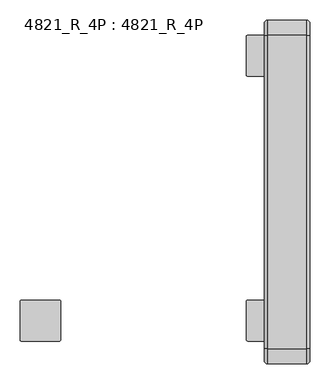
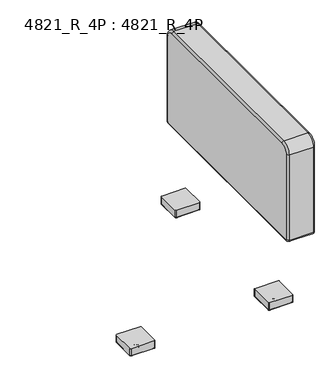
"""IFC4 building model written with IfcOpenShell, lengths in millimetres: furniture geometry, 4821_R_4P : 4821_R_4P."""

from ifc_helpers import new_model, si_unit, point, frame, frame_2d, origin, place, context, project, spatial, polyline, circle_curve, ellipse_curve, trimmed, segment, composite_curve, outline, extrude, source, transform, mapped, element, save
from ifc_brep_helpers import plane_surface, cylinder_surface, revolved_surface, advanced_brep


def furniture_4821_r_4p_4821_r_4p_cb9a3e68(model_context):
    return source(origin(), model_context, "Body", "SolidModel", [
        advanced_brep(
        [(0.0, -8.89, 698.8175), (0.0, -38.1, 728.0275), (0.0, -819.15, 728.0275), (0.0, -848.36, 698.8175), (0.0, -848.36, 330.4403326), (0.0, -847.8021674, 329.8825), (0.0, -9.4347305, 329.8825), (0.0, -8.89, 330.4272305), (-114.3, -38.1, 728.0275), (-114.3, -8.89, 698.8175), (-114.3, -8.89, 330.4272305), (-114.3, -9.4347305, 329.8825), (-114.3, -847.8021674, 329.8825), (-114.3, -848.36, 330.4403326), (-114.3, -848.36, 698.8175), (-114.3, -819.15, 728.0275), (-105.41, -38.1, 736.9175), (-105.41, -819.15, 736.9175), (-8.89, -819.15, 736.9175), (-8.89, -38.1, 736.9175), (-105.41, -857.25, 698.8175), (-8.89, -857.25, 698.8175), (-105.41, -857.25, 330.4403326), (-8.89, -857.25, 330.4403326), (-105.41, -847.8021674, 320.9925), (-8.89, -847.8021674, 320.9925), (-105.41, -9.4347305, 320.9925), (-8.89, -9.4347305, 320.9925), (-57.15, -187.325, 320.9925), (-57.15, -161.925, 320.9925), (-57.15, -695.325, 320.9925), (-57.15, -669.925, 320.9925), (-105.41, 0.0, 330.4272305), (-8.89, 0.0, 330.4272305), (-105.41, 0.0, 698.8175), (-8.89, 0.0, 698.8175), (-57.15, -161.925, 333.6925), (-57.15, -187.325, 333.6925), (-57.15, -669.925, 333.6925), (-57.15, -695.325, 333.6925)],
        [
            (0, 1, circle_curve(frame((0.0, -38.1, 698.8175), z_axis=(1.0, 0.0, 0.0), x_axis=(0.0, 0.0, 1.0)), 29.21)),
            (1, 2),
            (2, 3, circle_curve(frame((0.0, -819.15, 698.8175), z_axis=(1.0, 0.0, 0.0), x_axis=(0.0, -1.0, 0.0)), 29.21)),
            (3, 4),
            (4, 5, circle_curve(frame((0.0, -847.8021674, 330.4403326), z_axis=(1.0, 0.0, 0.0), x_axis=(0.0, 0.0, -1.0)), 0.5578326)),
            (5, 6),
            (6, 7, circle_curve(frame((0.0, -9.4347305, 330.4272305), z_axis=(1.0, 0.0, 0.0), x_axis=(0.0, 1.0, 0.0)), 0.5447305)),
            (7, 0),
            (8, 9, circle_curve(frame((-114.3, -38.1, 698.8175), z_axis=(-1.0, 0.0, 0.0), x_axis=(0.0, 0.0, 1.0)), 29.21)),
            (9, 10),
            (10, 11, circle_curve(frame((-114.3, -9.4347305, 330.4272305), z_axis=(-1.0, 0.0, 0.0), x_axis=(0.0, 1.0, 0.0)), 0.5447305)),
            (11, 12),
            (12, 13, circle_curve(frame((-114.3, -847.8021674, 330.4403326), z_axis=(-1.0, 0.0, 0.0), x_axis=(0.0, 0.0, -1.0)), 0.5578326)),
            (13, 14),
            (14, 15, circle_curve(frame((-114.3, -819.15, 698.8175), z_axis=(-1.0, 0.0, 0.0), x_axis=(0.0, -1.0, 0.0)), 29.21)),
            (15, 8),
            (16, 17),
            (17, 18),
            (18, 19),
            (19, 16),
            (17, 20, circle_curve(frame((-105.41, -819.15, 698.8175), z_axis=(1.0, 0.0, 0.0), x_axis=(0.0, -1.0, 0.0)), 38.1)),
            (20, 21),
            (21, 18, circle_curve(frame((-8.89, -819.15, 698.8175), z_axis=(-1.0, 0.0, 0.0), x_axis=(0.0, -1.0, 0.0)), 38.1)),
            (20, 22),
            (22, 23),
            (23, 21),
            (22, 24, circle_curve(frame((-105.41, -847.8021674, 330.4403326), z_axis=(1.0, 0.0, 0.0), x_axis=(0.0, -1.0, 0.0)), 9.4478326)),
            (24, 25),
            (25, 23, circle_curve(frame((-8.89, -847.8021674, 330.4403326), z_axis=(-1.0, 0.0, 0.0), x_axis=(0.0, -1.0, 0.0)), 9.4478326)),
            (24, 26),
            (26, 27),
            (27, 25),
            (28, 29, circle_curve(frame((-57.15, -174.625, 320.9925), z_axis=(0.0, 0.0, 1.0), x_axis=(-1.0, 0.0, 0.0)), 12.7)),
            (29, 28),
            (30, 31, circle_curve(frame((-57.15, -682.625, 320.9925), z_axis=(0.0, 0.0, 1.0), x_axis=(-1.0, 0.0, 0.0)), 12.7)),
            (31, 30),
            (26, 32, circle_curve(frame((-105.41, -9.4347305, 330.4272305), z_axis=(1.0, 0.0, 0.0), x_axis=(0.0, -1.0, 0.0)), 9.4347305)),
            (32, 33),
            (33, 27, circle_curve(frame((-8.89, -9.4347305, 330.4272305), z_axis=(-1.0, 0.0, 0.0), x_axis=(0.0, -1.0, 0.0)), 9.4347305)),
            (32, 34),
            (34, 35),
            (35, 33),
            (34, 16, circle_curve(frame((-105.41, -38.1, 698.8175), z_axis=(1.0, 0.0, 0.0), x_axis=(0.0, -1.0, 0.0)), 38.1)),
            (19, 35, circle_curve(frame((-8.89, -38.1, 698.8175), z_axis=(-1.0, 0.0, 0.0), x_axis=(0.0, -1.0, 0.0)), 38.1)),
            (34, 9, circle_curve(frame((-105.41, -8.89, 698.8175), z_axis=(0.0, 0.0, 1.0), x_axis=(1.0, 0.0, 0.0)), 8.89)),
            (8, 16, circle_curve(frame((-105.41, -38.1, 728.0275), z_axis=(0.0, 1.0, 0.0), x_axis=(1.0, 0.0, 0.0)), 8.89)),
            (32, 10, circle_curve(frame((-105.41, -8.89, 330.4272305), z_axis=(0.0, 0.0, 1.0), x_axis=(1.0, 0.0, 0.0)), 8.89)),
            (26, 11, circle_curve(frame((-105.41, -9.4347305, 329.8825), z_axis=(0.0, 1.0, 0.0), x_axis=(1.0, 0.0, 0.0)), 8.89)),
            (24, 12, circle_curve(frame((-105.41, -847.8021674, 329.8825), z_axis=(0.0, 1.0, 0.0), x_axis=(1.0, 0.0, 0.0)), 8.89)),
            (22, 13, circle_curve(frame((-105.41, -848.36, 330.4403326), z_axis=(0.0, 0.0, -1.0), x_axis=(1.0, 0.0, 0.0)), 8.89)),
            (20, 14, circle_curve(frame((-105.41, -848.36, 698.8175), z_axis=(0.0, 0.0, -1.0), x_axis=(1.0, 0.0, 0.0)), 8.89)),
            (17, 15, circle_curve(frame((-105.41, -819.15, 728.0275), z_axis=(0.0, -1.0, 0.0), x_axis=(1.0, 0.0, 0.0)), 8.89)),
            (0, 35, circle_curve(frame((-8.89, -8.89, 698.8175), z_axis=(0.0, 0.0, 1.0), x_axis=(-1.0, 0.0, 0.0)), 8.89)),
            (19, 1, circle_curve(frame((-8.89, -38.1, 728.0275), z_axis=(0.0, 1.0, 0.0), x_axis=(-1.0, 0.0, 0.0)), 8.89)),
            (7, 33, circle_curve(frame((-8.89, -8.89, 330.4272305), z_axis=(0.0, 0.0, 1.0), x_axis=(-1.0, 0.0, 0.0)), 8.89)),
            (6, 27, circle_curve(frame((-8.89, -9.4347305, 329.8825), z_axis=(0.0, 1.0, 0.0), x_axis=(-1.0, 0.0, 0.0)), 8.89)),
            (5, 25, circle_curve(frame((-8.89, -847.8021674, 329.8825), z_axis=(0.0, 1.0, 0.0), x_axis=(-1.0, 0.0, 0.0)), 8.89)),
            (4, 23, circle_curve(frame((-8.89, -848.36, 330.4403326), z_axis=(0.0, 0.0, -1.0), x_axis=(-1.0, 0.0, 0.0)), 8.89)),
            (3, 21, circle_curve(frame((-8.89, -848.36, 698.8175), z_axis=(0.0, 0.0, -1.0), x_axis=(-1.0, 0.0, 0.0)), 8.89)),
            (2, 18, circle_curve(frame((-8.89, -819.15, 728.0275), z_axis=(0.0, -1.0, 0.0), x_axis=(-1.0, 0.0, 0.0)), 8.89)),
            (36, 37, circle_curve(frame((-57.15, -174.625, 333.6925), z_axis=(0.0, 0.0, -1.0), x_axis=(-1.0, 0.0, 0.0)), 12.7)),
            (37, 36),
            (38, 39, circle_curve(frame((-57.15, -682.625, 333.6925), z_axis=(0.0, 0.0, -1.0), x_axis=(-1.0, 0.0, 0.0)), 12.7)),
            (39, 38),
            (36, 29),
            (28, 37),
            (38, 31),
            (30, 39),
        ],
        [
            plane_surface(frame((0.0, -819.15, 736.9175), z_axis=(1.0, 0.0, 0.0), x_axis=(0.0, -1.0, 0.0))),
            plane_surface(frame((-114.3, -819.15, 736.9175), z_axis=(-1.0, 0.0, 0.0), x_axis=(0.0, 1.0, 0.0))),
            plane_surface(frame((0.0, -38.1, 736.9175), z_axis=(0.0, 0.0, 1.0), x_axis=(-1.0, 0.0, 0.0))),
            cylinder_surface(frame((-114.3, -819.15, 698.8175), z_axis=(1.0, 0.0, 0.0), x_axis=(0.0, -1.0, 0.0)), 38.1),
            plane_surface(frame((0.0, -857.25, 698.8175), z_axis=(0.0, -1.0, 0.0), x_axis=(-1.0, 0.0, 0.0))),
            cylinder_surface(frame((-114.3, -847.8021674, 330.4403326), z_axis=(1.0, 0.0, 0.0), x_axis=(0.0, -1.0, 0.0)), 9.4478326),
            plane_surface(frame((0.0, -847.8021674, 320.9925), z_axis=(0.0, 0.0, -1.0), x_axis=(-1.0, 0.0, 0.0))),
            cylinder_surface(frame((-114.3, -9.4347305, 330.4272305), z_axis=(1.0, 0.0, 0.0), x_axis=(0.0, -1.0, 0.0)), 9.4347305),
            plane_surface(frame((0.0, 0.0, 330.4272305), z_axis=(0.0, 1.0, 0.0), x_axis=(-1.0, 0.0, 0.0))),
            cylinder_surface(frame((-114.3, -38.1, 698.8175), z_axis=(1.0, 0.0, 0.0), x_axis=(0.0, -1.0, 0.0)), 38.1),
            revolved_surface(trimmed(ellipse_curve(frame((-105.41, -38.1, 728.0275), z_axis=(0.0, -1.0, 0.0), x_axis=(1.0, 0.0, 0.0)), 8.89, 8.89), [point((-105.41, -38.1, 736.9175))], [point((-114.3, -38.1, 728.0275))], True, "CARTESIAN"), (-114.3, -38.1, 698.8175), (-1.0, 0.0, 0.0)),
            cylinder_surface(frame((-105.41, -8.89, 698.8175), z_axis=(0.0, 0.0, -1.0), x_axis=(1.0, 0.0, 0.0)), 8.89),
            revolved_surface(trimmed(ellipse_curve(frame((-105.41, -8.89, 330.4272305), z_axis=(0.0, 0.0, 1.0), x_axis=(1.0, 0.0, 0.0)), 8.89, 8.89), [point((-105.41, 0.0, 330.4272305))], [point((-114.3, -8.89, 330.4272305))], True, "CARTESIAN"), (-114.3, -9.4347305, 330.4272305), (-1.0, 0.0, 0.0)),
            cylinder_surface(frame((-105.41, -9.4347305, 329.8825), z_axis=(0.0, -1.0, 0.0), x_axis=(1.0, 0.0, 0.0)), 8.89),
            revolved_surface(trimmed(ellipse_curve(frame((-105.41, -847.8021674, 329.8825), z_axis=(0.0, 1.0, 0.0), x_axis=(1.0, 0.0, 0.0)), 8.89, 8.89), [point((-105.41, -847.8021674, 320.9925))], [point((-114.3, -847.8021674, 329.8825))], True, "CARTESIAN"), (-114.3, -847.8021674, 330.4403326), (-1.0, 0.0, 0.0)),
            cylinder_surface(frame((-105.41, -848.36, 330.4403326), z_axis=(0.0, 0.0, 1.0), x_axis=(1.0, 0.0, 0.0)), 8.89),
            revolved_surface(trimmed(ellipse_curve(frame((-105.41, -848.36, 698.8175), z_axis=(0.0, 0.0, -1.0), x_axis=(1.0, 0.0, 0.0)), 8.89, 8.89), [point((-105.41, -857.25, 698.8175))], [point((-114.3, -848.36, 698.8175))], True, "CARTESIAN"), (-114.3, -819.15, 698.8175), (-1.0, 0.0, 0.0)),
            cylinder_surface(frame((-105.41, -819.15, 728.0275), z_axis=(0.0, 1.0, 0.0), x_axis=(1.0, 0.0, 0.0)), 8.89),
            revolved_surface(trimmed(ellipse_curve(frame((-8.89, -38.1, 728.0275), z_axis=(0.0, -1.0, 0.0), x_axis=(-1.0, 0.0, 0.0)), 8.89, 8.89), [point((0.0, -38.1, 728.0275))], [point((-8.89, -38.1, 736.9175))], True, "CARTESIAN"), (0.0, -38.1, 698.8175), (-1.0, 0.0, 0.0)),
            cylinder_surface(frame((-8.89, -8.89, 698.8175), z_axis=(0.0, 0.0, -1.0), x_axis=(-1.0, 0.0, 0.0)), 8.89),
            revolved_surface(trimmed(ellipse_curve(frame((-8.89, -8.89, 330.4272305), z_axis=(0.0, 0.0, 1.0), x_axis=(-1.0, 0.0, 0.0)), 8.89, 8.89), [point((0.0, -8.89, 330.4272305))], [point((-8.89, 0.0, 330.4272305))], True, "CARTESIAN"), (0.0, -9.4347305, 330.4272305), (-1.0, 0.0, 0.0)),
            cylinder_surface(frame((-8.89, -9.4347305, 329.8825), z_axis=(0.0, -1.0, 0.0), x_axis=(-1.0, 0.0, 0.0)), 8.89),
            revolved_surface(trimmed(ellipse_curve(frame((-8.89, -847.8021674, 329.8825), z_axis=(0.0, 1.0, 0.0), x_axis=(-1.0, 0.0, 0.0)), 8.89, 8.89), [point((0.0, -847.8021674, 329.8825))], [point((-8.89, -847.8021674, 320.9925))], True, "CARTESIAN"), (0.0, -847.8021674, 330.4403326), (-1.0, 0.0, 0.0)),
            cylinder_surface(frame((-8.89, -848.36, 330.4403326), z_axis=(0.0, 0.0, 1.0), x_axis=(-1.0, 0.0, 0.0)), 8.89),
            revolved_surface(trimmed(ellipse_curve(frame((-8.89, -848.36, 698.8175), z_axis=(0.0, 0.0, -1.0), x_axis=(-1.0, 0.0, 0.0)), 8.89, 8.89), [point((0.0, -848.36, 698.8175))], [point((-8.89, -857.25, 698.8175))], True, "CARTESIAN"), (0.0, -819.15, 698.8175), (-1.0, 0.0, 0.0)),
            cylinder_surface(frame((-8.89, -819.15, 728.0275), z_axis=(0.0, 1.0, 0.0), x_axis=(-1.0, 0.0, 0.0)), 8.89),
            plane_surface(frame((-57.15, -187.325, 333.6925), z_axis=(0.0, 0.0, -1.0), x_axis=(0.0, -1.0, 0.0))),
            revolved_surface(polyline([(-69.85, -174.625, 333.6925), (-69.85, -174.625, 320.9925)]), (-57.15, -174.625, 320.9925), (0.0, 0.0, 1.0)),
            plane_surface(frame((-57.15, -161.925, 333.6925), z_axis=(1.0, 0.0, 0.0), x_axis=(0.0, 0.0, -1.0))),
            revolved_surface(polyline([(-69.85, -682.625, 333.6925), (-69.85, -682.625, 320.9925)]), (-57.15, -682.625, 9.8425), (0.0, 0.0, 1.0)),
            plane_surface(frame((-57.15, -669.925, 333.6925), z_axis=(1.0, 0.0, 0.0), x_axis=(0.0, 0.0, -1.0))),
        ],
        [
            (0, [[1, 2, 3, 4, 5, 6, 7, 8]]),
            (1, [[9, 10, 11, 12, 13, 14, 15, 16]]),
            (2, [[17, 18, 19, 20]]),
            (3, [[21, 22, 23, -18]]),
            (4, [[24, 25, 26, -22]]),
            (5, [[27, 28, 29, -25]]),
            (6, [[30, 31, 32, -28], [33, 34], [35, 36]]),
            (7, [[37, 38, 39, -31]]),
            (8, [[40, 41, 42, -38]]),
            (9, [[43, -20, 44, -41]]),
            (10, [[45, -9, 46, -43]]),
            (11, [[-45, -40, 47, -10]]),
            (12, [[-47, -37, 48, -11]]),
            (13, [[-48, -30, 49, -12]]),
            (14, [[-49, -27, 50, -13]]),
            (15, [[-50, -24, 51, -14]]),
            (16, [[-51, -21, 52, -15]]),
            (17, [[-46, -16, -52, -17]]),
            (18, [[53, -44, 54, -1]]),
            (19, [[-53, -8, 55, -42]]),
            (20, [[-55, -7, 56, -39]]),
            (21, [[-56, -6, 57, -32]]),
            (22, [[-57, -5, 58, -29]]),
            (23, [[-58, -4, 59, -26]]),
            (24, [[-59, -3, 60, -23]]),
            (25, [[-54, -19, -60, -2]]),
            (26, [[61, 62]]),
            (26, [[63, 64]]),
            (27, [[-61, 65, -33, 66]]),
            (28, [[-62, -66, -34, -65]]),
            (29, [[-63, 67, -35, 68]]),
            (30, [[-64, -68, -36, -67]]),
        ],
    ),
        advanced_brep(
        [(-625.475, -698.5, 41.5925), (-720.725, -698.5, 41.5925), (-723.9, -701.675, 41.5925), (-723.9, -796.925, 41.5925), (-720.725, -800.1, 41.5925), (-625.475, -800.1, 41.5925), (-622.3, -796.925, 41.5925), (-622.3, -701.675, 41.5925), (-722.63, -701.675, 11.1125), (-720.725, -699.77, 11.1125), (-625.475, -699.77, 11.1125), (-623.57, -701.675, 11.1125), (-623.57, -796.925, 11.1125), (-625.475, -798.83, 11.1125), (-720.725, -798.83, 11.1125), (-722.63, -796.925, 11.1125), (-625.475, -698.5, 11.1125), (-720.725, -698.5, 11.1125), (-723.9, -701.675, 11.1125), (-723.9, -796.925, 11.1125), (-720.725, -800.1, 11.1125), (-625.475, -800.1, 11.1125), (-622.3, -796.925, 11.1125), (-622.3, -701.675, 11.1125), (-720.725, -699.77, 9.8425), (-722.63, -701.675, 9.8425), (-625.475, -699.77, 9.8425), (-623.57, -701.675, 9.8425), (-623.57, -796.925, 9.8425), (-625.475, -798.83, 9.8425), (-720.725, -798.83, 9.8425), (-722.63, -796.925, 9.8425)],
        [
            (0, 1),
            (1, 2, circle_curve(frame((-720.725, -701.675, 41.5925), z_axis=(0.0, 0.0, 1.0), x_axis=(1.0, 0.0, 0.0)), 3.175)),
            (2, 3),
            (3, 4, circle_curve(frame((-720.725, -796.925, 41.5925), z_axis=(0.0, 0.0, 1.0), x_axis=(1.0, 0.0, 0.0)), 3.175)),
            (4, 5),
            (5, 6, circle_curve(frame((-625.475, -796.925, 41.5925), z_axis=(0.0, 0.0, 1.0), x_axis=(1.0, 0.0, 0.0)), 3.175)),
            (6, 7),
            (7, 0, circle_curve(frame((-625.475, -701.675, 41.5925), z_axis=(0.0, 0.0, 1.0), x_axis=(1.0, 0.0, 0.0)), 3.175)),
            (8, 9, circle_curve(frame((-720.725, -701.675, 11.1125), z_axis=(0.0, 0.0, -1.0), x_axis=(-1.0, 0.0, 0.0)), 1.905)),
            (9, 10),
            (10, 11, circle_curve(frame((-625.475, -701.675, 11.1125), z_axis=(0.0, 0.0, -1.0), x_axis=(0.0, 1.0, 0.0)), 1.905)),
            (11, 12),
            (12, 13, circle_curve(frame((-625.475, -796.925, 11.1125), z_axis=(0.0, 0.0, -1.0), x_axis=(1.0, 0.0, 0.0)), 1.905)),
            (13, 14),
            (14, 15, circle_curve(frame((-720.725, -796.925, 11.1125), z_axis=(0.0, 0.0, -1.0), x_axis=(0.0, -1.0, 0.0)), 1.905)),
            (15, 8),
            (0, 16),
            (16, 17),
            (17, 1),
            (17, 18, circle_curve(frame((-720.725, -701.675, 11.1125), z_axis=(0.0, 0.0, 1.0), x_axis=(1.0, 0.0, 0.0)), 3.175)),
            (18, 2),
            (18, 19),
            (19, 3),
            (19, 20, circle_curve(frame((-720.725, -796.925, 11.1125), z_axis=(0.0, 0.0, 1.0), x_axis=(1.0, 0.0, 0.0)), 3.175)),
            (20, 4),
            (20, 21),
            (21, 5),
            (21, 22, circle_curve(frame((-625.475, -796.925, 11.1125), z_axis=(0.0, 0.0, 1.0), x_axis=(1.0, 0.0, 0.0)), 3.175)),
            (22, 6),
            (22, 23),
            (23, 7),
            (23, 16, circle_curve(frame((-625.475, -701.675, 11.1125), z_axis=(0.0, 0.0, 1.0), x_axis=(1.0, 0.0, 0.0)), 3.175)),
            (24, 25, circle_curve(frame((-720.725, -701.675, 9.8425), z_axis=(0.0, 0.0, 1.0), x_axis=(-1.0, 0.0, 0.0)), 1.905)),
            (25, 18, circle_curve(frame((-722.63, -701.675, 11.1125), z_axis=(0.0, 1.0, 0.0), x_axis=(1.0, 0.0, 0.0)), 1.27)),
            (17, 24, circle_curve(frame((-720.725, -699.77, 11.1125), z_axis=(-1.0, 0.0, 0.0), x_axis=(0.0, -1.0, 0.0)), 1.27)),
            (16, 26, circle_curve(frame((-625.475, -699.77, 11.1125), z_axis=(-1.0, 0.0, 0.0), x_axis=(0.0, -1.0, 0.0)), 1.27)),
            (26, 24),
            (23, 27, circle_curve(frame((-623.57, -701.675, 11.1125), z_axis=(0.0, 1.0, 0.0), x_axis=(-1.0, 0.0, 0.0)), 1.27)),
            (27, 26, circle_curve(frame((-625.475, -701.675, 9.8425), z_axis=(0.0, 0.0, 1.0), x_axis=(0.0, 1.0, 0.0)), 1.905)),
            (22, 28, circle_curve(frame((-623.57, -796.925, 11.1125), z_axis=(0.0, 1.0, 0.0), x_axis=(-1.0, 0.0, 0.0)), 1.27)),
            (28, 27),
            (21, 29, circle_curve(frame((-625.475, -798.83, 11.1125), z_axis=(1.0, 0.0, 0.0), x_axis=(0.0, 1.0, 0.0)), 1.27)),
            (29, 28, circle_curve(frame((-625.475, -796.925, 9.8425), z_axis=(0.0, 0.0, 1.0), x_axis=(1.0, 0.0, 0.0)), 1.905)),
            (20, 30, circle_curve(frame((-720.725, -798.83, 11.1125), z_axis=(1.0, 0.0, 0.0), x_axis=(0.0, 1.0, 0.0)), 1.27)),
            (30, 29),
            (19, 31, circle_curve(frame((-722.63, -796.925, 11.1125), z_axis=(0.0, -1.0, 0.0), x_axis=(1.0, 0.0, 0.0)), 1.27)),
            (31, 30, circle_curve(frame((-720.725, -796.925, 9.8425), z_axis=(0.0, 0.0, 1.0), x_axis=(0.0, -1.0, 0.0)), 1.905)),
            (25, 31),
            (24, 9),
            (8, 25),
            (26, 10),
            (27, 11),
            (28, 12),
            (29, 13),
            (30, 14),
            (31, 15),
        ],
        [
            plane_surface(frame((-720.725, -698.5, 41.5925), z_axis=(0.0, 0.0, 1.0), x_axis=(-1.0, 0.0, 0.0))),
            plane_surface(frame((-720.725, -698.5, 11.1125), z_axis=(0.0, 0.0, -1.0), x_axis=(1.0, 0.0, 0.0))),
            plane_surface(frame((-625.475, -698.5, 41.5925), z_axis=(0.0, 1.0, 0.0), x_axis=(0.0, 0.0, -1.0))),
            cylinder_surface(frame((-720.725, -701.675, 11.1125), z_axis=(0.0, 0.0, 1.0), x_axis=(1.0, 0.0, 0.0)), 3.175),
            plane_surface(frame((-723.9, -701.675, 41.5925), z_axis=(-1.0, 0.0, 0.0), x_axis=(0.0, 0.0, -1.0))),
            cylinder_surface(frame((-720.725, -796.925, 11.1125), z_axis=(0.0, 0.0, 1.0), x_axis=(1.0, 0.0, 0.0)), 3.175),
            plane_surface(frame((-720.725, -800.1, 41.5925), z_axis=(0.0, -1.0, 0.0), x_axis=(0.0, 0.0, -1.0))),
            cylinder_surface(frame((-625.475, -796.925, 11.1125), z_axis=(0.0, 0.0, 1.0), x_axis=(1.0, 0.0, 0.0)), 3.175),
            plane_surface(frame((-622.3, -796.925, 41.5925), z_axis=(1.0, 0.0, 0.0), x_axis=(0.0, 0.0, -1.0))),
            cylinder_surface(frame((-625.475, -701.675, 11.1125), z_axis=(0.0, 0.0, 1.0), x_axis=(1.0, 0.0, 0.0)), 3.175),
            revolved_surface(trimmed(ellipse_curve(frame((-722.63, -701.675, 11.1125), z_axis=(0.0, -1.0, 0.0), x_axis=(1.0, 0.0, 0.0)), 1.27, 1.27), [point((-723.9, -701.675, 11.1125))], [point((-722.63, -701.675, 9.8425))], True, "CARTESIAN"), (-720.725, -701.675, 11.1125), (0.0, 0.0, -1.0)),
            cylinder_surface(frame((-720.725, -699.77, 11.1125), z_axis=(-1.0, 0.0, 0.0), x_axis=(0.0, -1.0, 0.0)), 1.27),
            revolved_surface(trimmed(ellipse_curve(frame((-625.475, -699.77, 11.1125), z_axis=(-1.0, 0.0, 0.0), x_axis=(0.0, -1.0, 0.0)), 1.27, 1.27), [point((-625.475, -698.5, 11.1125))], [point((-625.475, -699.77, 9.8425))], True, "CARTESIAN"), (-625.475, -701.675, 11.1125), (0.0, 0.0, -1.0)),
            cylinder_surface(frame((-623.57, -701.675, 11.1125), z_axis=(0.0, 1.0, 0.0), x_axis=(-1.0, 0.0, 0.0)), 1.27),
            revolved_surface(trimmed(ellipse_curve(frame((-623.57, -796.925, 11.1125), z_axis=(0.0, 1.0, 0.0), x_axis=(-1.0, 0.0, 0.0)), 1.27, 1.27), [point((-622.3, -796.925, 11.1125))], [point((-623.57, -796.925, 9.8425))], True, "CARTESIAN"), (-625.475, -796.925, 11.1125), (0.0, 0.0, -1.0)),
            cylinder_surface(frame((-625.475, -798.83, 11.1125), z_axis=(1.0, 0.0, 0.0), x_axis=(0.0, 1.0, 0.0)), 1.27),
            revolved_surface(trimmed(ellipse_curve(frame((-720.725, -798.83, 11.1125), z_axis=(1.0, 0.0, 0.0), x_axis=(0.0, 1.0, 0.0)), 1.27, 1.27), [point((-720.725, -800.1, 11.1125))], [point((-720.725, -798.83, 9.8425))], True, "CARTESIAN"), (-720.725, -796.925, 11.1125), (0.0, 0.0, -1.0)),
            cylinder_surface(frame((-722.63, -796.925, 11.1125), z_axis=(0.0, -1.0, 0.0), x_axis=(1.0, 0.0, 0.0)), 1.27),
            revolved_surface(polyline([(-722.63, -701.675, 9.8425), (-722.63, -701.675, 11.1125)]), (-720.725, -701.675, 11.1125), (0.0, 0.0, -1.0)),
            plane_surface(frame((-720.725, -699.77, 9.8425), z_axis=(0.0, -1.0, 0.0), x_axis=(1.0, 0.0, 0.0))),
            revolved_surface(polyline([(-625.475, -699.77, 9.8425), (-625.475, -699.77, 11.1125)]), (-625.475, -701.675, 11.1125), (0.0, 0.0, -1.0)),
            plane_surface(frame((-623.57, -701.675, 9.8425), z_axis=(-1.0, 0.0, 0.0), x_axis=(0.0, -1.0, 0.0))),
            revolved_surface(polyline([(-623.57, -796.925, 9.8425), (-623.57, -796.925, 11.1125)]), (-625.475, -796.925, 11.1125), (0.0, 0.0, -1.0)),
            plane_surface(frame((-625.475, -798.83, 9.8425), z_axis=(0.0, 1.0, 0.0), x_axis=(-1.0, 0.0, 0.0))),
            revolved_surface(polyline([(-720.725, -798.8299999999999, 9.8425), (-720.725, -798.8299999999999, 11.1125)]), (-720.725, -796.925, 11.1125), (0.0, 0.0, -1.0)),
            plane_surface(frame((-722.63, -796.925, 9.8425), z_axis=(1.0, 0.0, 0.0), x_axis=(0.0, 1.0, 0.0))),
        ],
        [
            (0, [[1, 2, 3, 4, 5, 6, 7, 8]]),
            (1, [[9, 10, 11, 12, 13, 14, 15, 16]]),
            (2, [[-1, 17, 18, 19]]),
            (3, [[-2, -19, 20, 21]]),
            (4, [[-3, -21, 22, 23]]),
            (5, [[-4, -23, 24, 25]]),
            (6, [[-5, -25, 26, 27]]),
            (7, [[-6, -27, 28, 29]]),
            (8, [[-7, -29, 30, 31]]),
            (9, [[-8, -31, 32, -17]]),
            (10, [[33, 34, -20, 35]]),
            (11, [[-35, -18, 36, 37]]),
            (12, [[-36, -32, 38, 39]]),
            (13, [[-38, -30, 40, 41]]),
            (14, [[-40, -28, 42, 43]]),
            (15, [[-42, -26, 44, 45]]),
            (16, [[-44, -24, 46, 47]]),
            (17, [[-34, 48, -46, -22]]),
            (18, [[-33, 49, -9, 50]]),
            (19, [[-37, 51, -10, -49]]),
            (20, [[-39, 52, -11, -51]]),
            (21, [[-41, 53, -12, -52]]),
            (22, [[-43, 54, -13, -53]]),
            (23, [[-45, 55, -14, -54]]),
            (24, [[-47, 56, -15, -55]]),
            (25, [[-48, -50, -16, -56]]),
        ],
    ),
        extrude(outline(composite_curve([segment(trimmed(circle_curve(frame_2d((-720.725, -796.925)), 1.905), [point((-720.725, -798.83))], [point((-722.63, -796.925))], False, "CARTESIAN"), True, "CONTINUOUS"), segment(polyline([(-722.63, -796.925), (-722.63, -701.675)]), True, "CONTINUOUS"), segment(trimmed(circle_curve(frame_2d((-720.725, -701.675)), 1.905), [point((-722.63, -701.675))], [point((-720.725, -699.77))], False, "CARTESIAN"), True, "CONTINUOUS"), segment(polyline([(-720.725, -699.77), (-625.475, -699.77)]), True, "CONTINUOUS"), segment(trimmed(circle_curve(frame_2d((-625.475, -701.675)), 1.905), [point((-625.475, -699.77))], [point((-623.57, -701.675))], False, "CARTESIAN"), True, "CONTINUOUS"), segment(polyline([(-623.57, -701.675), (-623.57, -796.925)]), True, "CONTINUOUS"), segment(trimmed(circle_curve(frame_2d((-625.475, -796.925)), 1.905), [point((-623.57, -796.925))], [point((-625.475, -798.83))], False, "CARTESIAN"), True, "CONTINUOUS"), segment(polyline([(-625.475, -798.83), (-720.725, -798.83)]), True, "CONTINUOUS")], self_intersect=False)), frame((0.0, 0.0, 9.8425), z_axis=(0.0, 0.0, 1.0), x_axis=(1.0, 0.0, 0.0)), (0.0, 0.0, 1.0), 1.27),
        advanced_brep(
        [(-683.2521334, -749.3, 0.0), (-662.9478666, -749.3, 0.0), (-673.1, -749.3, 0.0), (-683.5775, -749.3, 5.08), (-662.6225, -749.3, 5.08), (-683.5775, -749.3, 9.0481974), (-662.6225, -749.3, 9.0481974), (-682.7831974, -749.3, 9.8425), (-663.4168026, -749.3, 9.8425), (-673.1, -749.3, 9.8425)],
        [
            (0, 1, circle_curve(frame((-673.1, -749.3, 0.0), z_axis=(0.0, 0.0, -1.0), x_axis=(1.0, 0.0, 0.0)), 10.1521334)),
            (1, 2),
            (2, 0),
            (1, 0, circle_curve(frame((-673.1, -749.3, 0.0), z_axis=(0.0, 0.0, -1.0), x_axis=(1.0, 0.0, 0.0)), 10.1521334)),
            (3, 4, circle_curve(frame((-673.1, -749.3, 5.08), z_axis=(0.0, 0.0, -1.0), x_axis=(1.0, 0.0, 0.0)), 10.4775)),
            (4, 1, circle_curve(frame((-662.9478666, -749.3, 2.5504196), z_axis=(0.0, 1.0, 0.0), x_axis=(1.0, 0.0, 0.0)), 2.5504196)),
            (0, 3, circle_curve(frame((-683.2521334, -749.3, 2.5504196), z_axis=(0.0, 1.0, 0.0), x_axis=(-1.0, 0.0, 0.0)), 2.5504196)),
            (4, 3, circle_curve(frame((-673.1, -749.3, 5.08), z_axis=(0.0, 0.0, -1.0), x_axis=(1.0, 0.0, 0.0)), 10.4775)),
            (5, 6, circle_curve(frame((-673.1, -749.3, 9.0481974), z_axis=(0.0, 0.0, -1.0), x_axis=(1.0, 0.0, 0.0)), 10.4775)),
            (6, 4),
            (3, 5),
            (6, 5, circle_curve(frame((-673.1, -749.3, 9.0481974), z_axis=(0.0, 0.0, -1.0), x_axis=(1.0, 0.0, 0.0)), 10.4775)),
            (7, 8, circle_curve(frame((-673.1, -749.3, 9.8425), z_axis=(0.0, 0.0, -1.0), x_axis=(1.0, 0.0, 0.0)), 9.6831974)),
            (8, 6, circle_curve(frame((-663.4168026, -749.3, 9.0481974), z_axis=(0.0, 1.0, 0.0), x_axis=(1.0, 0.0, 0.0)), 0.7943026)),
            (5, 7, circle_curve(frame((-682.7831974, -749.3, 9.0481974), z_axis=(0.0, 1.0, 0.0), x_axis=(-1.0, 0.0, 0.0)), 0.7943026)),
            (8, 7, circle_curve(frame((-673.1, -749.3, 9.8425), z_axis=(0.0, 0.0, -1.0), x_axis=(1.0, 0.0, 0.0)), 9.6831974)),
            (9, 8),
            (7, 9),
        ],
        [
            plane_surface(frame((-673.1, -749.3, 0.0), z_axis=(0.0, 0.0, -1.0), x_axis=(1.0, 0.0, 0.0))),
            revolved_surface(trimmed(ellipse_curve(frame((-662.9478666, -749.3, 2.5504196), z_axis=(0.0, -1.0, 0.0), x_axis=(1.0, 0.0, 0.0)), 2.5504196, 2.5504196), [point((-662.9478666, -749.3, 0.0))], [point((-662.6225, -749.3, 5.08))], True, "CARTESIAN"), (-673.1, -749.3, 9.8425), (0.0, 0.0, 1.0)),
            cylinder_surface(frame((-673.1, -749.3, 9.8425), z_axis=(0.0, 0.0, 1.0), x_axis=(1.0, 0.0, 0.0)), 10.4775),
            revolved_surface(trimmed(ellipse_curve(frame((-663.4168026, -749.3, 9.0481974), z_axis=(0.0, -1.0, 0.0), x_axis=(1.0, 0.0, 0.0)), 0.7943026, 0.7943026), [point((-662.6225, -749.3, 9.0481974))], [point((-663.4168026, -749.3, 9.8425))], True, "CARTESIAN"), (-673.1, -749.3, 9.8425), (0.0, 0.0, 1.0)),
            plane_surface(frame((-673.1, -749.3, 9.8425), z_axis=(0.0, 0.0, 1.0), x_axis=(1.0, 0.0, 0.0))),
        ],
        [
            (0, [[1, 2, 3]]),
            (0, [[4, -3, -2]]),
            (1, [[5, 6, -1, 7]]),
            (1, [[8, -7, -4, -6]]),
            (2, [[9, 10, -5, 11]]),
            (2, [[12, -11, -8, -10]]),
            (3, [[13, 14, -9, 15]]),
            (3, [[16, -15, -12, -14]]),
            (4, [[17, -13, 18]]),
            (4, [[-18, -16, -17]]),
        ],
    ),
        advanced_brep(
        [(-60.325, -698.5, 41.5925), (-155.575, -698.5, 41.5925), (-158.75, -701.675, 41.5925), (-158.75, -796.925, 41.5925), (-155.575, -800.1, 41.5925), (-60.325, -800.1, 41.5925), (-57.15, -796.925, 41.5925), (-57.15, -701.675, 41.5925), (-157.48, -701.675, 11.1125), (-155.575, -699.77, 11.1125), (-60.325, -699.77, 11.1125), (-58.42, -701.675, 11.1125), (-58.42, -796.925, 11.1125), (-60.325, -798.83, 11.1125), (-155.575, -798.83, 11.1125), (-157.48, -796.925, 11.1125), (-60.325, -698.5, 11.1125), (-155.575, -698.5, 11.1125), (-158.75, -701.675, 11.1125), (-158.75, -796.925, 11.1125), (-155.575, -800.1, 11.1125), (-60.325, -800.1, 11.1125), (-57.15, -796.925, 11.1125), (-57.15, -701.675, 11.1125), (-155.575, -699.77, 9.8425), (-157.48, -701.675, 9.8425), (-60.325, -699.77, 9.8425), (-58.42, -701.675, 9.8425), (-58.42, -796.925, 9.8425), (-60.325, -798.83, 9.8425), (-155.575, -798.83, 9.8425), (-157.48, -796.925, 9.8425)],
        [
            (0, 1),
            (1, 2, circle_curve(frame((-155.575, -701.675, 41.5925), z_axis=(0.0, 0.0, 1.0), x_axis=(1.0, 0.0, 0.0)), 3.175)),
            (2, 3),
            (3, 4, circle_curve(frame((-155.575, -796.925, 41.5925), z_axis=(0.0, 0.0, 1.0), x_axis=(1.0, 0.0, 0.0)), 3.175)),
            (4, 5),
            (5, 6, circle_curve(frame((-60.325, -796.925, 41.5925), z_axis=(0.0, 0.0, 1.0), x_axis=(1.0, 0.0, 0.0)), 3.175)),
            (6, 7),
            (7, 0, circle_curve(frame((-60.325, -701.675, 41.5925), z_axis=(0.0, 0.0, 1.0), x_axis=(1.0, 0.0, 0.0)), 3.175)),
            (8, 9, circle_curve(frame((-155.575, -701.675, 11.1125), z_axis=(0.0, 0.0, -1.0), x_axis=(-1.0, 0.0, 0.0)), 1.905)),
            (9, 10),
            (10, 11, circle_curve(frame((-60.325, -701.675, 11.1125), z_axis=(0.0, 0.0, -1.0), x_axis=(0.0, 1.0, 0.0)), 1.905)),
            (11, 12),
            (12, 13, circle_curve(frame((-60.325, -796.925, 11.1125), z_axis=(0.0, 0.0, -1.0), x_axis=(1.0, 0.0, 0.0)), 1.905)),
            (13, 14),
            (14, 15, circle_curve(frame((-155.575, -796.925, 11.1125), z_axis=(0.0, 0.0, -1.0), x_axis=(0.0, -1.0, 0.0)), 1.905)),
            (15, 8),
            (0, 16),
            (16, 17),
            (17, 1),
            (17, 18, circle_curve(frame((-155.575, -701.675, 11.1125), z_axis=(0.0, 0.0, 1.0), x_axis=(1.0, 0.0, 0.0)), 3.175)),
            (18, 2),
            (18, 19),
            (19, 3),
            (19, 20, circle_curve(frame((-155.575, -796.925, 11.1125), z_axis=(0.0, 0.0, 1.0), x_axis=(1.0, 0.0, 0.0)), 3.175)),
            (20, 4),
            (20, 21),
            (21, 5),
            (21, 22, circle_curve(frame((-60.325, -796.925, 11.1125), z_axis=(0.0, 0.0, 1.0), x_axis=(1.0, 0.0, 0.0)), 3.175)),
            (22, 6),
            (22, 23),
            (23, 7),
            (23, 16, circle_curve(frame((-60.325, -701.675, 11.1125), z_axis=(0.0, 0.0, 1.0), x_axis=(1.0, 0.0, 0.0)), 3.175)),
            (24, 25, circle_curve(frame((-155.575, -701.675, 9.8425), z_axis=(0.0, 0.0, 1.0), x_axis=(-1.0, 0.0, 0.0)), 1.905)),
            (25, 18, circle_curve(frame((-157.48, -701.675, 11.1125), z_axis=(0.0, 1.0, 0.0), x_axis=(1.0, 0.0, 0.0)), 1.27)),
            (17, 24, circle_curve(frame((-155.575, -699.77, 11.1125), z_axis=(-1.0, 0.0, 0.0), x_axis=(0.0, -1.0, 0.0)), 1.27)),
            (16, 26, circle_curve(frame((-60.325, -699.77, 11.1125), z_axis=(-1.0, 0.0, 0.0), x_axis=(0.0, -1.0, 0.0)), 1.27)),
            (26, 24),
            (23, 27, circle_curve(frame((-58.42, -701.675, 11.1125), z_axis=(0.0, 1.0, 0.0), x_axis=(-1.0, 0.0, 0.0)), 1.27)),
            (27, 26, circle_curve(frame((-60.325, -701.675, 9.8425), z_axis=(0.0, 0.0, 1.0), x_axis=(0.0, 1.0, 0.0)), 1.905)),
            (22, 28, circle_curve(frame((-58.42, -796.925, 11.1125), z_axis=(0.0, 1.0, 0.0), x_axis=(-1.0, 0.0, 0.0)), 1.27)),
            (28, 27),
            (21, 29, circle_curve(frame((-60.325, -798.83, 11.1125), z_axis=(1.0, 0.0, 0.0), x_axis=(0.0, 1.0, 0.0)), 1.27)),
            (29, 28, circle_curve(frame((-60.325, -796.925, 9.8425), z_axis=(0.0, 0.0, 1.0), x_axis=(1.0, 0.0, 0.0)), 1.905)),
            (20, 30, circle_curve(frame((-155.575, -798.83, 11.1125), z_axis=(1.0, 0.0, 0.0), x_axis=(0.0, 1.0, 0.0)), 1.27)),
            (30, 29),
            (19, 31, circle_curve(frame((-157.48, -796.925, 11.1125), z_axis=(0.0, -1.0, 0.0), x_axis=(1.0, 0.0, 0.0)), 1.27)),
            (31, 30, circle_curve(frame((-155.575, -796.925, 9.8425), z_axis=(0.0, 0.0, 1.0), x_axis=(0.0, -1.0, 0.0)), 1.905)),
            (25, 31),
            (24, 9),
            (8, 25),
            (26, 10),
            (27, 11),
            (28, 12),
            (29, 13),
            (30, 14),
            (31, 15),
        ],
        [
            plane_surface(frame((-155.575, -698.5, 41.5925), z_axis=(0.0, 0.0, 1.0), x_axis=(-1.0, 0.0, 0.0))),
            plane_surface(frame((-155.575, -698.5, 11.1125), z_axis=(0.0, 0.0, -1.0), x_axis=(1.0, 0.0, 0.0))),
            plane_surface(frame((-60.325, -698.5, 41.5925), z_axis=(0.0, 1.0, 0.0), x_axis=(0.0, 0.0, -1.0))),
            cylinder_surface(frame((-155.575, -701.675, 11.1125), z_axis=(0.0, 0.0, 1.0), x_axis=(1.0, 0.0, 0.0)), 3.175),
            plane_surface(frame((-158.75, -701.675, 41.5925), z_axis=(-1.0, 0.0, 0.0), x_axis=(0.0, 0.0, -1.0))),
            cylinder_surface(frame((-155.575, -796.925, 11.1125), z_axis=(0.0, 0.0, 1.0), x_axis=(1.0, 0.0, 0.0)), 3.175),
            plane_surface(frame((-155.575, -800.1, 41.5925), z_axis=(0.0, -1.0, 0.0), x_axis=(0.0, 0.0, -1.0))),
            cylinder_surface(frame((-60.325, -796.925, 11.1125), z_axis=(0.0, 0.0, 1.0), x_axis=(1.0, 0.0, 0.0)), 3.175),
            plane_surface(frame((-57.15, -796.925, 41.5925), z_axis=(1.0, 0.0, 0.0), x_axis=(0.0, 0.0, -1.0))),
            cylinder_surface(frame((-60.325, -701.675, 11.1125), z_axis=(0.0, 0.0, 1.0), x_axis=(1.0, 0.0, 0.0)), 3.175),
            revolved_surface(trimmed(ellipse_curve(frame((-157.48, -701.675, 11.1125), z_axis=(0.0, -1.0, 0.0), x_axis=(1.0, 0.0, 0.0)), 1.27, 1.27), [point((-158.75, -701.675, 11.1125))], [point((-157.48, -701.675, 9.8425))], True, "CARTESIAN"), (-155.575, -701.675, 11.1125), (0.0, 0.0, -1.0)),
            cylinder_surface(frame((-155.575, -699.77, 11.1125), z_axis=(-1.0, 0.0, 0.0), x_axis=(0.0, -1.0, 0.0)), 1.27),
            revolved_surface(trimmed(ellipse_curve(frame((-60.325, -699.77, 11.1125), z_axis=(-1.0, 0.0, 0.0), x_axis=(0.0, -1.0, 0.0)), 1.27, 1.27), [point((-60.325, -698.5, 11.1125))], [point((-60.325, -699.77, 9.8425))], True, "CARTESIAN"), (-60.325, -701.675, 11.1125), (0.0, 0.0, -1.0)),
            cylinder_surface(frame((-58.42, -701.675, 11.1125), z_axis=(0.0, 1.0, 0.0), x_axis=(-1.0, 0.0, 0.0)), 1.27),
            revolved_surface(trimmed(ellipse_curve(frame((-58.42, -796.925, 11.1125), z_axis=(0.0, 1.0, 0.0), x_axis=(-1.0, 0.0, 0.0)), 1.27, 1.27), [point((-57.15, -796.925, 11.1125))], [point((-58.42, -796.925, 9.8425))], True, "CARTESIAN"), (-60.325, -796.925, 11.1125), (0.0, 0.0, -1.0)),
            cylinder_surface(frame((-60.325, -798.83, 11.1125), z_axis=(1.0, 0.0, 0.0), x_axis=(0.0, 1.0, 0.0)), 1.27),
            revolved_surface(trimmed(ellipse_curve(frame((-155.575, -798.83, 11.1125), z_axis=(1.0, 0.0, 0.0), x_axis=(0.0, 1.0, 0.0)), 1.27, 1.27), [point((-155.575, -800.1, 11.1125))], [point((-155.575, -798.83, 9.8425))], True, "CARTESIAN"), (-155.575, -796.925, 11.1125), (0.0, 0.0, -1.0)),
            cylinder_surface(frame((-157.48, -796.925, 11.1125), z_axis=(0.0, -1.0, 0.0), x_axis=(1.0, 0.0, 0.0)), 1.27),
            revolved_surface(polyline([(-157.48, -701.675, 9.8425), (-157.48, -701.675, 11.1125)]), (-155.575, -701.675, 11.1125), (0.0, 0.0, -1.0)),
            plane_surface(frame((-155.575, -699.77, 9.8425), z_axis=(0.0, -1.0, 0.0), x_axis=(1.0, 0.0, 0.0))),
            revolved_surface(polyline([(-60.325, -699.77, 9.8425), (-60.325, -699.77, 11.1125)]), (-60.325, -701.675, 11.1125), (0.0, 0.0, -1.0)),
            plane_surface(frame((-58.42, -701.675, 9.8425), z_axis=(-1.0, 0.0, 0.0), x_axis=(0.0, -1.0, 0.0))),
            revolved_surface(polyline([(-58.42, -796.925, 9.8425), (-58.42, -796.925, 11.1125)]), (-60.325, -796.925, 11.1125), (0.0, 0.0, -1.0)),
            plane_surface(frame((-60.325, -798.83, 9.8425), z_axis=(0.0, 1.0, 0.0), x_axis=(-1.0, 0.0, 0.0))),
            revolved_surface(polyline([(-155.575, -798.8299999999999, 9.8425), (-155.575, -798.8299999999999, 11.1125)]), (-155.575, -796.925, 11.1125), (0.0, 0.0, -1.0)),
            plane_surface(frame((-157.48, -796.925, 9.8425), z_axis=(1.0, 0.0, 0.0), x_axis=(0.0, 1.0, 0.0))),
        ],
        [
            (0, [[1, 2, 3, 4, 5, 6, 7, 8]]),
            (1, [[9, 10, 11, 12, 13, 14, 15, 16]]),
            (2, [[-1, 17, 18, 19]]),
            (3, [[-2, -19, 20, 21]]),
            (4, [[-3, -21, 22, 23]]),
            (5, [[-4, -23, 24, 25]]),
            (6, [[-5, -25, 26, 27]]),
            (7, [[-6, -27, 28, 29]]),
            (8, [[-7, -29, 30, 31]]),
            (9, [[-8, -31, 32, -17]]),
            (10, [[33, 34, -20, 35]]),
            (11, [[-35, -18, 36, 37]]),
            (12, [[-36, -32, 38, 39]]),
            (13, [[-38, -30, 40, 41]]),
            (14, [[-40, -28, 42, 43]]),
            (15, [[-42, -26, 44, 45]]),
            (16, [[-44, -24, 46, 47]]),
            (17, [[-34, 48, -46, -22]]),
            (18, [[-33, 49, -9, 50]]),
            (19, [[-37, 51, -10, -49]]),
            (20, [[-39, 52, -11, -51]]),
            (21, [[-41, 53, -12, -52]]),
            (22, [[-43, 54, -13, -53]]),
            (23, [[-45, 55, -14, -54]]),
            (24, [[-47, 56, -15, -55]]),
            (25, [[-48, -50, -16, -56]]),
        ],
    ),
        extrude(outline(composite_curve([segment(trimmed(circle_curve(frame_2d((-155.575, -796.925)), 1.905), [point((-155.575, -798.83))], [point((-157.48, -796.925))], False, "CARTESIAN"), True, "CONTINUOUS"), segment(polyline([(-157.48, -796.925), (-157.48, -701.675)]), True, "CONTINUOUS"), segment(trimmed(circle_curve(frame_2d((-155.575, -701.675)), 1.905), [point((-157.48, -701.675))], [point((-155.575, -699.77))], False, "CARTESIAN"), True, "CONTINUOUS"), segment(polyline([(-155.575, -699.77), (-60.325, -699.77)]), True, "CONTINUOUS"), segment(trimmed(circle_curve(frame_2d((-60.325, -701.675)), 1.905), [point((-60.325, -699.77))], [point((-58.42, -701.675))], False, "CARTESIAN"), True, "CONTINUOUS"), segment(polyline([(-58.42, -701.675), (-58.42, -796.925)]), True, "CONTINUOUS"), segment(trimmed(circle_curve(frame_2d((-60.325, -796.925)), 1.905), [point((-58.42, -796.925))], [point((-60.325, -798.83))], False, "CARTESIAN"), True, "CONTINUOUS"), segment(polyline([(-60.325, -798.83), (-155.575, -798.83)]), True, "CONTINUOUS")], self_intersect=False)), frame((0.0, 0.0, 9.8425), z_axis=(0.0, 0.0, 1.0), x_axis=(1.0, 0.0, 0.0)), (0.0, 0.0, 1.0), 1.27),
        advanced_brep(
        [(-118.1021334, -749.3, 0.0), (-97.7978666, -749.3, 0.0), (-107.95, -749.3, 0.0), (-118.4275, -749.3, 5.08), (-97.4725, -749.3, 5.08), (-118.4275, -749.3, 9.0481974), (-97.4725, -749.3, 9.0481974), (-117.6331974, -749.3, 9.8425), (-98.2668026, -749.3, 9.8425), (-107.95, -749.3, 9.8425)],
        [
            (0, 1, circle_curve(frame((-107.95, -749.3, 0.0), z_axis=(0.0, 0.0, -1.0), x_axis=(1.0, 0.0, 0.0)), 10.1521334)),
            (1, 2),
            (2, 0),
            (1, 0, circle_curve(frame((-107.95, -749.3, 0.0), z_axis=(0.0, 0.0, -1.0), x_axis=(1.0, 0.0, 0.0)), 10.1521334)),
            (3, 4, circle_curve(frame((-107.95, -749.3, 5.08), z_axis=(0.0, 0.0, -1.0), x_axis=(1.0, 0.0, 0.0)), 10.4775)),
            (4, 1, circle_curve(frame((-97.7978666, -749.3, 2.5504196), z_axis=(0.0, 1.0, 0.0), x_axis=(1.0, 0.0, 0.0)), 2.5504196)),
            (0, 3, circle_curve(frame((-118.1021334, -749.3, 2.5504196), z_axis=(0.0, 1.0, 0.0), x_axis=(-1.0, 0.0, 0.0)), 2.5504196)),
            (4, 3, circle_curve(frame((-107.95, -749.3, 5.08), z_axis=(0.0, 0.0, -1.0), x_axis=(1.0, 0.0, 0.0)), 10.4775)),
            (5, 6, circle_curve(frame((-107.95, -749.3, 9.0481974), z_axis=(0.0, 0.0, -1.0), x_axis=(1.0, 0.0, 0.0)), 10.4775)),
            (6, 4),
            (3, 5),
            (6, 5, circle_curve(frame((-107.95, -749.3, 9.0481974), z_axis=(0.0, 0.0, -1.0), x_axis=(1.0, 0.0, 0.0)), 10.4775)),
            (7, 8, circle_curve(frame((-107.95, -749.3, 9.8425), z_axis=(0.0, 0.0, -1.0), x_axis=(1.0, 0.0, 0.0)), 9.6831974)),
            (8, 6, circle_curve(frame((-98.2668026, -749.3, 9.0481974), z_axis=(0.0, 1.0, 0.0), x_axis=(1.0, 0.0, 0.0)), 0.7943026)),
            (5, 7, circle_curve(frame((-117.6331974, -749.3, 9.0481974), z_axis=(0.0, 1.0, 0.0), x_axis=(-1.0, 0.0, 0.0)), 0.7943026)),
            (8, 7, circle_curve(frame((-107.95, -749.3, 9.8425), z_axis=(0.0, 0.0, -1.0), x_axis=(1.0, 0.0, 0.0)), 9.6831974)),
            (9, 8),
            (7, 9),
        ],
        [
            plane_surface(frame((-107.95, -749.3, 0.0), z_axis=(0.0, 0.0, -1.0), x_axis=(1.0, 0.0, 0.0))),
            revolved_surface(trimmed(ellipse_curve(frame((-97.7978666, -749.3, 2.5504196), z_axis=(0.0, -1.0, 0.0), x_axis=(1.0, 0.0, 0.0)), 2.5504196, 2.5504196), [point((-97.7978666, -749.3, 0.0))], [point((-97.4725, -749.3, 5.08))], True, "CARTESIAN"), (-107.95, -749.3, 9.8425), (0.0, 0.0, 1.0)),
            cylinder_surface(frame((-107.95, -749.3, 9.8425), z_axis=(0.0, 0.0, 1.0), x_axis=(1.0, 0.0, 0.0)), 10.4775),
            revolved_surface(trimmed(ellipse_curve(frame((-98.2668026, -749.3, 9.0481974), z_axis=(0.0, -1.0, 0.0), x_axis=(1.0, 0.0, 0.0)), 0.7943026, 0.7943026), [point((-97.4725, -749.3, 9.0481974))], [point((-98.2668026, -749.3, 9.8425))], True, "CARTESIAN"), (-107.95, -749.3, 9.8425), (0.0, 0.0, 1.0)),
            plane_surface(frame((-107.95, -749.3, 9.8425), z_axis=(0.0, 0.0, 1.0), x_axis=(1.0, 0.0, 0.0))),
        ],
        [
            (0, [[1, 2, 3]]),
            (0, [[4, -3, -2]]),
            (1, [[5, 6, -1, 7]]),
            (1, [[8, -7, -4, -6]]),
            (2, [[9, 10, -5, 11]]),
            (2, [[12, -11, -8, -10]]),
            (3, [[13, 14, -9, 15]]),
            (3, [[16, -15, -12, -14]]),
            (4, [[17, -13, 18]]),
            (4, [[-18, -16, -17]]),
        ],
    ),
        advanced_brep(
        [(-60.325, -38.1, 41.5925), (-155.575, -38.1, 41.5925), (-158.75, -41.275, 41.5925), (-158.75, -136.525, 41.5925), (-155.575, -139.7, 41.5925), (-60.325, -139.7, 41.5925), (-57.15, -136.525, 41.5925), (-57.15, -41.275, 41.5925), (-157.48, -41.275, 11.1125), (-155.575, -39.37, 11.1125), (-60.325, -39.37, 11.1125), (-58.42, -41.275, 11.1125), (-58.42, -136.525, 11.1125), (-60.325, -138.43, 11.1125), (-155.575, -138.43, 11.1125), (-157.48, -136.525, 11.1125), (-60.325, -38.1, 11.1125), (-155.575, -38.1, 11.1125), (-158.75, -41.275, 11.1125), (-158.75, -136.525, 11.1125), (-155.575, -139.7, 11.1125), (-60.325, -139.7, 11.1125), (-57.15, -136.525, 11.1125), (-57.15, -41.275, 11.1125), (-155.575, -39.37, 9.8425), (-157.48, -41.275, 9.8425), (-60.325, -39.37, 9.8425), (-58.42, -41.275, 9.8425), (-58.42, -136.525, 9.8425), (-60.325, -138.43, 9.8425), (-155.575, -138.43, 9.8425), (-157.48, -136.525, 9.8425)],
        [
            (0, 1),
            (1, 2, circle_curve(frame((-155.575, -41.275, 41.5925), z_axis=(0.0, 0.0, 1.0), x_axis=(1.0, 0.0, 0.0)), 3.175)),
            (2, 3),
            (3, 4, circle_curve(frame((-155.575, -136.525, 41.5925), z_axis=(0.0, 0.0, 1.0), x_axis=(1.0, 0.0, 0.0)), 3.175)),
            (4, 5),
            (5, 6, circle_curve(frame((-60.325, -136.525, 41.5925), z_axis=(0.0, 0.0, 1.0), x_axis=(1.0, 0.0, 0.0)), 3.175)),
            (6, 7),
            (7, 0, circle_curve(frame((-60.325, -41.275, 41.5925), z_axis=(0.0, 0.0, 1.0), x_axis=(1.0, 0.0, 0.0)), 3.175)),
            (8, 9, circle_curve(frame((-155.575, -41.275, 11.1125), z_axis=(0.0, 0.0, -1.0), x_axis=(-1.0, 0.0, 0.0)), 1.905)),
            (9, 10),
            (10, 11, circle_curve(frame((-60.325, -41.275, 11.1125), z_axis=(0.0, 0.0, -1.0), x_axis=(0.0, 1.0, 0.0)), 1.905)),
            (11, 12),
            (12, 13, circle_curve(frame((-60.325, -136.525, 11.1125), z_axis=(0.0, 0.0, -1.0), x_axis=(1.0, 0.0, 0.0)), 1.905)),
            (13, 14),
            (14, 15, circle_curve(frame((-155.575, -136.525, 11.1125), z_axis=(0.0, 0.0, -1.0), x_axis=(0.0, -1.0, 0.0)), 1.905)),
            (15, 8),
            (0, 16),
            (16, 17),
            (17, 1),
            (17, 18, circle_curve(frame((-155.575, -41.275, 11.1125), z_axis=(0.0, 0.0, 1.0), x_axis=(1.0, 0.0, 0.0)), 3.175)),
            (18, 2),
            (18, 19),
            (19, 3),
            (19, 20, circle_curve(frame((-155.575, -136.525, 11.1125), z_axis=(0.0, 0.0, 1.0), x_axis=(1.0, 0.0, 0.0)), 3.175)),
            (20, 4),
            (20, 21),
            (21, 5),
            (21, 22, circle_curve(frame((-60.325, -136.525, 11.1125), z_axis=(0.0, 0.0, 1.0), x_axis=(1.0, 0.0, 0.0)), 3.175)),
            (22, 6),
            (22, 23),
            (23, 7),
            (23, 16, circle_curve(frame((-60.325, -41.275, 11.1125), z_axis=(0.0, 0.0, 1.0), x_axis=(1.0, 0.0, 0.0)), 3.175)),
            (24, 25, circle_curve(frame((-155.575, -41.275, 9.8425), z_axis=(0.0, 0.0, 1.0), x_axis=(-1.0, 0.0, 0.0)), 1.905)),
            (25, 18, circle_curve(frame((-157.48, -41.275, 11.1125), z_axis=(0.0, 1.0, 0.0), x_axis=(1.0, 0.0, 0.0)), 1.27)),
            (17, 24, circle_curve(frame((-155.575, -39.37, 11.1125), z_axis=(-1.0, 0.0, 0.0), x_axis=(0.0, -1.0, 0.0)), 1.27)),
            (16, 26, circle_curve(frame((-60.325, -39.37, 11.1125), z_axis=(-1.0, 0.0, 0.0), x_axis=(0.0, -1.0, 0.0)), 1.27)),
            (26, 24),
            (23, 27, circle_curve(frame((-58.42, -41.275, 11.1125), z_axis=(0.0, 1.0, 0.0), x_axis=(-1.0, 0.0, 0.0)), 1.27)),
            (27, 26, circle_curve(frame((-60.325, -41.275, 9.8425), z_axis=(0.0, 0.0, 1.0), x_axis=(0.0, 1.0, 0.0)), 1.905)),
            (22, 28, circle_curve(frame((-58.42, -136.525, 11.1125), z_axis=(0.0, 1.0, 0.0), x_axis=(-1.0, 0.0, 0.0)), 1.27)),
            (28, 27),
            (21, 29, circle_curve(frame((-60.325, -138.43, 11.1125), z_axis=(1.0, 0.0, 0.0), x_axis=(0.0, 1.0, 0.0)), 1.27)),
            (29, 28, circle_curve(frame((-60.325, -136.525, 9.8425), z_axis=(0.0, 0.0, 1.0), x_axis=(1.0, 0.0, 0.0)), 1.905)),
            (20, 30, circle_curve(frame((-155.575, -138.43, 11.1125), z_axis=(1.0, 0.0, 0.0), x_axis=(0.0, 1.0, 0.0)), 1.27)),
            (30, 29),
            (19, 31, circle_curve(frame((-157.48, -136.525, 11.1125), z_axis=(0.0, -1.0, 0.0), x_axis=(1.0, 0.0, 0.0)), 1.27)),
            (31, 30, circle_curve(frame((-155.575, -136.525, 9.8425), z_axis=(0.0, 0.0, 1.0), x_axis=(0.0, -1.0, 0.0)), 1.905)),
            (25, 31),
            (24, 9),
            (8, 25),
            (26, 10),
            (27, 11),
            (28, 12),
            (29, 13),
            (30, 14),
            (31, 15),
        ],
        [
            plane_surface(frame((-155.575, -38.1, 41.5925), z_axis=(0.0, 0.0, 1.0), x_axis=(-1.0, 0.0, 0.0))),
            plane_surface(frame((-155.575, -38.1, 11.1125), z_axis=(0.0, 0.0, -1.0), x_axis=(1.0, 0.0, 0.0))),
            plane_surface(frame((-60.325, -38.1, 41.5925), z_axis=(0.0, 1.0, 0.0), x_axis=(0.0, 0.0, -1.0))),
            cylinder_surface(frame((-155.575, -41.275, 11.1125), z_axis=(0.0, 0.0, 1.0), x_axis=(1.0, 0.0, 0.0)), 3.175),
            plane_surface(frame((-158.75, -41.275, 41.5925), z_axis=(-1.0, 0.0, 0.0), x_axis=(0.0, 0.0, -1.0))),
            cylinder_surface(frame((-155.575, -136.525, 11.1125), z_axis=(0.0, 0.0, 1.0), x_axis=(1.0, 0.0, 0.0)), 3.175),
            plane_surface(frame((-155.575, -139.7, 41.5925), z_axis=(0.0, -1.0, 0.0), x_axis=(0.0, 0.0, -1.0))),
            cylinder_surface(frame((-60.325, -136.525, 11.1125), z_axis=(0.0, 0.0, 1.0), x_axis=(1.0, 0.0, 0.0)), 3.175),
            plane_surface(frame((-57.15, -136.525, 41.5925), z_axis=(1.0, 0.0, 0.0), x_axis=(0.0, 0.0, -1.0))),
            cylinder_surface(frame((-60.325, -41.275, 11.1125), z_axis=(0.0, 0.0, 1.0), x_axis=(1.0, 0.0, 0.0)), 3.175),
            revolved_surface(trimmed(ellipse_curve(frame((-157.48, -41.275, 11.1125), z_axis=(0.0, -1.0, 0.0), x_axis=(1.0, 0.0, 0.0)), 1.27, 1.27), [point((-158.75, -41.275, 11.1125))], [point((-157.48, -41.275, 9.8425))], True, "CARTESIAN"), (-155.575, -41.275, 11.1125), (0.0, 0.0, -1.0)),
            cylinder_surface(frame((-155.575, -39.37, 11.1125), z_axis=(-1.0, 0.0, 0.0), x_axis=(0.0, -1.0, 0.0)), 1.27),
            revolved_surface(trimmed(ellipse_curve(frame((-60.325, -39.37, 11.1125), z_axis=(-1.0, 0.0, 0.0), x_axis=(0.0, -1.0, 0.0)), 1.27, 1.27), [point((-60.325, -38.1, 11.1125))], [point((-60.325, -39.37, 9.8425))], True, "CARTESIAN"), (-60.325, -41.275, 11.1125), (0.0, 0.0, -1.0)),
            cylinder_surface(frame((-58.42, -41.275, 11.1125), z_axis=(0.0, 1.0, 0.0), x_axis=(-1.0, 0.0, 0.0)), 1.27),
            revolved_surface(trimmed(ellipse_curve(frame((-58.42, -136.525, 11.1125), z_axis=(0.0, 1.0, 0.0), x_axis=(-1.0, 0.0, 0.0)), 1.27, 1.27), [point((-57.15, -136.525, 11.1125))], [point((-58.42, -136.525, 9.8425))], True, "CARTESIAN"), (-60.325, -136.525, 11.1125), (0.0, 0.0, -1.0)),
            cylinder_surface(frame((-60.325, -138.43, 11.1125), z_axis=(1.0, 0.0, 0.0), x_axis=(0.0, 1.0, 0.0)), 1.27),
            revolved_surface(trimmed(ellipse_curve(frame((-155.575, -138.43, 11.1125), z_axis=(1.0, 0.0, 0.0), x_axis=(0.0, 1.0, 0.0)), 1.27, 1.27), [point((-155.575, -139.7, 11.1125))], [point((-155.575, -138.43, 9.8425))], True, "CARTESIAN"), (-155.575, -136.525, 11.1125), (0.0, 0.0, -1.0)),
            cylinder_surface(frame((-157.48, -136.525, 11.1125), z_axis=(0.0, -1.0, 0.0), x_axis=(1.0, 0.0, 0.0)), 1.27),
            revolved_surface(polyline([(-157.48, -41.275, 9.8425), (-157.48, -41.275, 11.1125)]), (-155.575, -41.275, 11.1125), (0.0, 0.0, -1.0)),
            plane_surface(frame((-155.575, -39.37, 9.8425), z_axis=(0.0, -1.0, 0.0), x_axis=(1.0, 0.0, 0.0))),
            revolved_surface(polyline([(-60.325, -39.37, 9.8425), (-60.325, -39.37, 11.1125)]), (-60.325, -41.275, 11.1125), (0.0, 0.0, -1.0)),
            plane_surface(frame((-58.42, -41.275, 9.8425), z_axis=(-1.0, 0.0, 0.0), x_axis=(0.0, -1.0, 0.0))),
            revolved_surface(polyline([(-58.42, -136.525, 9.8425), (-58.42, -136.525, 11.1125)]), (-60.325, -136.525, 11.1125), (0.0, 0.0, -1.0)),
            plane_surface(frame((-60.325, -138.43, 9.8425), z_axis=(0.0, 1.0, 0.0), x_axis=(-1.0, 0.0, 0.0))),
            revolved_surface(polyline([(-155.575, -138.43, 9.8425), (-155.575, -138.43, 11.1125)]), (-155.575, -136.525, 11.1125), (0.0, 0.0, -1.0)),
            plane_surface(frame((-157.48, -136.525, 9.8425), z_axis=(1.0, 0.0, 0.0), x_axis=(0.0, 1.0, 0.0))),
        ],
        [
            (0, [[1, 2, 3, 4, 5, 6, 7, 8]]),
            (1, [[9, 10, 11, 12, 13, 14, 15, 16]]),
            (2, [[-1, 17, 18, 19]]),
            (3, [[-2, -19, 20, 21]]),
            (4, [[-3, -21, 22, 23]]),
            (5, [[-4, -23, 24, 25]]),
            (6, [[-5, -25, 26, 27]]),
            (7, [[-6, -27, 28, 29]]),
            (8, [[-7, -29, 30, 31]]),
            (9, [[-8, -31, 32, -17]]),
            (10, [[33, 34, -20, 35]]),
            (11, [[-35, -18, 36, 37]]),
            (12, [[-36, -32, 38, 39]]),
            (13, [[-38, -30, 40, 41]]),
            (14, [[-40, -28, 42, 43]]),
            (15, [[-42, -26, 44, 45]]),
            (16, [[-44, -24, 46, 47]]),
            (17, [[-34, 48, -46, -22]]),
            (18, [[-33, 49, -9, 50]]),
            (19, [[-37, 51, -10, -49]]),
            (20, [[-39, 52, -11, -51]]),
            (21, [[-41, 53, -12, -52]]),
            (22, [[-43, 54, -13, -53]]),
            (23, [[-45, 55, -14, -54]]),
            (24, [[-47, 56, -15, -55]]),
            (25, [[-48, -50, -16, -56]]),
        ],
    ),
    ])


if __name__ == "__main__":
    model = new_model("IFC4")
    model_context = context("Model", 3, world=origin())
    ifc_project = project(units=[si_unit("LENGTHUNIT", "METRE", prefix="MILLI")], contexts=[model_context])
    site = spatial("IfcSite", under=ifc_project)
    building = spatial("IfcBuilding", under=site)
    placement = place(None, origin())
    furniture_4821_r_4p_4821_r_4p_shape = furniture_4821_r_4p_4821_r_4p_cb9a3e68(model_context)
    element("IfcFurniture", 1, ObjectType="4821_R_4P : 4821_R_4P", at=placement, inside=building, context=model_context, shape_type="MappedRepresentation", body=[
        mapped(furniture_4821_r_4p_4821_r_4p_shape, transform((0.0, 0.0, 0.0), x_axis=(1.0, 0.0, 0.0), y_axis=(0.0, 1.0, 0.0), z_axis=(0.0, 0.0, 1.0))),
    ])
    save(model, "model.ifc")
